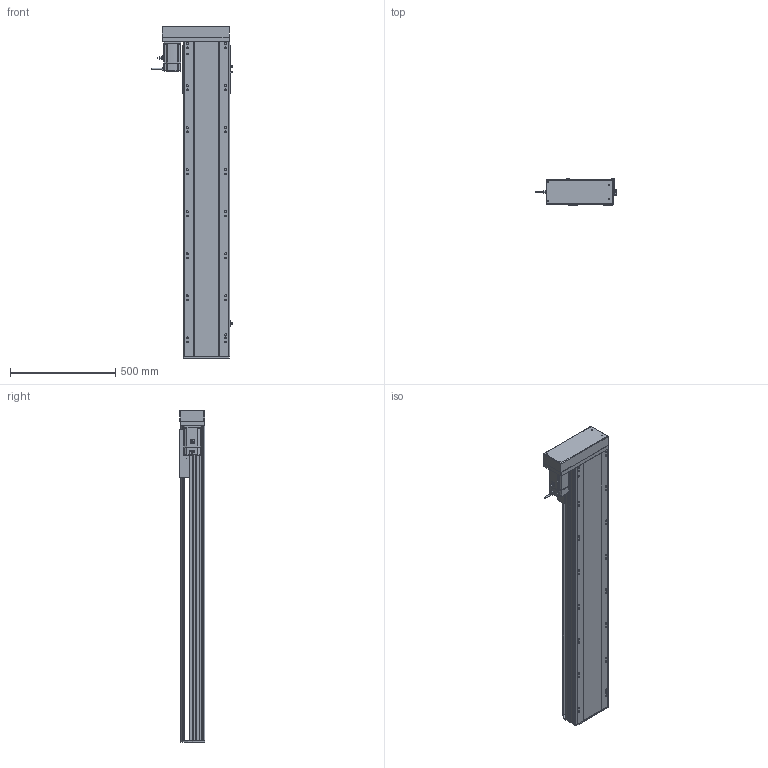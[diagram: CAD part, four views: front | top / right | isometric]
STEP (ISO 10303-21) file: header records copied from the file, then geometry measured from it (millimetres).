
FILE_DESCRIPTION (( 'STEP AP214' ), '1' );
FILE_NAME ('RTH22-XX-1200-R-M75-C4.STEP', '2025-10-25T03:14:07', ( 'Microsoft' ), ( 'Microsoft' ), 'SwSTEP 2.0', 'SolidWorks 2018', '' );
FILE_SCHEMA (( 'AUTOMOTIVE_DESIGN' ));
Length unit declared in the file: millimetre
Products named in the file (10): N_OMRON EE-SX672 传感器^RTH22-XX-XX-R-M75-C4; N_RTH22-L-011菁釱^RTH22-XX-XX-R-M75-C4; N_RTH22-R-008-P75萇儂啣^RTH22-XX-XX-R-M75-C4; N_750W萇儂^RTH22-XX-XX-R-M75-C4; N_RTH22-L-004-SFS25賑釱^RTH22-XX-XX-R-M75-C4; N_RTH22-L-007奻裔^RTH22-XX-XX-R-M75-C4; RTH22-XX-1200-R-M75-C4; N_RTH22-L-018裔赽^RTH22-XX-XX-R-M75-C4; N_RTH22-GY-001耜裔^RTH22-XX-XX-R-M75-C4; N_RTH22-GY-013外置感应片^RTH22-XX-XX-R-M75-C4
Assembly tree (11 placements, depth 2):
  RTH22-XX-1200-R-M75-C4
    N_RTH22-L-011菁釱^RTH22-XX-XX-R-M75-C4
    N_RTH22-GY-001耜裔^RTH22-XX-XX-R-M75-C4
    N_750W萇儂^RTH22-XX-XX-R-M75-C4
    N_RTH22-R-008-P75萇儂啣^RTH22-XX-XX-R-M75-C4
    N_RTH22-L-007奻裔^RTH22-XX-XX-R-M75-C4
    N_OMRON EE-SX672 传感器^RTH22-XX-XX-R-M75-C4  x3
    N_RTH22-GY-013外置感应片^RTH22-XX-XX-R-M75-C4
    N_RTH22-L-004-SFS25賑釱^RTH22-XX-XX-R-M75-C4
    N_RTH22-L-018裔赽^RTH22-XX-XX-R-M75-C4
Bounding box: 384.7 x 122 x 1579.7 mm (x, y, z)
Volume: 21264223.3 mm3; surface area: 2345516.2 mm2
Topology: 11 solids, 11 shells, 1610 faces, 4397 edges, 2833 vertices
Faces by surface type: plane 795, cylinder 474, bspline 279, cone 62
Entity records: 40625 total; most frequent: CARTESIAN_POINT 12350, ORIENTED_EDGE 5762, DIRECTION 5447, EDGE_CURVE 2881, VERTEX_POINT 1869, AXIS2_PLACEMENT_3D 1838, VECTOR 1771, LINE 1771
